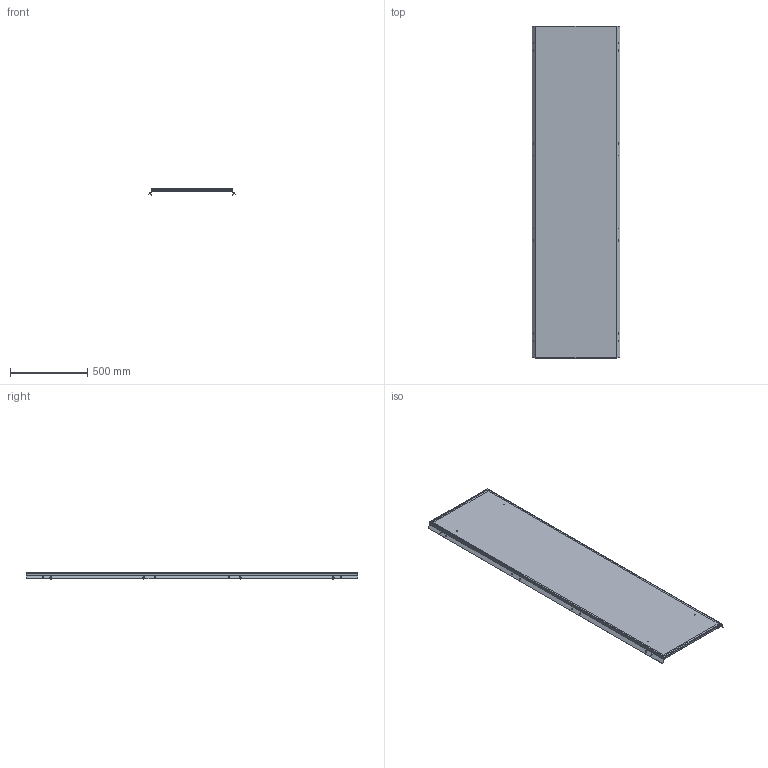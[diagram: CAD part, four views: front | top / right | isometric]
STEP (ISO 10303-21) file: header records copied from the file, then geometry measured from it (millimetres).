
FILE_DESCRIPTION (( 'STEP AP203' ), '1' );
FILE_NAME ('MA1.200.060622.10.00 AleSta-PR226 Ïàíåëü çàäíÿÿ, äëÿ øêàôîâ ALESTA, 2200 x 600.STEP', '2025-02-19T15:09:45', ( '' ), ( '' ), 'SwSTEP 2.0', 'SolidWorks 2021', '' );
FILE_SCHEMA (( 'CONFIG_CONTROL_DESIGN' ));
Length unit declared in the file: millimetre
Products named in the file (6): MA1.200.060620.11.01 Ïîëîòíî çàäíåé ïàíåëè 2000õ600_2200å600; Øïèëüêà Ì6õ12_˜¯¨«ìª  Œ6å12; Óïëîòíèòåëü ïàíåëè íèæíåé_‚=2200; MA1.200.060620.11.00 Ïàíåëü çàäíÿÿ, äëÿ øêàôîâ AleSta, 2000x600_2200å600; MA1.200.060622.10.00 AleSta-PR226  Ïàíåëü çàäíÿÿ, äëÿ øêàôîâ ALESTA, 2200 x 600; Âèíò ñàìîíàðåçàþùèé ñ ïîòàéíîé ãîëîâêîé Ì5x16 DIN 7500 M TORX, êëàññ ïðî÷íîñòè 8.8, îöèíêîâàííàÿ ñòàëü_Œ5å16
Assembly tree (15 placements, depth 3):
  MA1.200.060622.10.00 AleSta-PR226  Ïàíåëü çàäíÿÿ, äëÿ øêàôîâ ALESTA, 2200 x 600
    MA1.200.060620.11.00 Ïàíåëü çàäíÿÿ, äëÿ øêàôîâ AleSta, 2000x600_2200å600
      MA1.200.060620.11.01 Ïîëîòíî çàäíåé ïàíåëè 2000õ600_2200å600
      Óïëîòíèòåëü ïàíåëè íèæíåé_‚=2200
      Øïèëüêà Ì6õ12_˜¯¨«ìª  Œ6å12  x4
    Âèíò ñàìîíàðåçàþùèé ñ ïîòàéíîé ãîëîâêîé Ì5x16 DIN 7500 M TORX, êëàññ ïðî÷íîñòè 8.8, îöèíêîâàííàÿ ñòàëü_Œ5å16  x8
Bounding box: 565.31 x 2145 x 41.7 mm (x, y, z)
Volume: 1678821 mm3; surface area: 2860206.5 mm2
Topology: 14 solids, 14 shells, 544 faces, 1352 edges, 864 vertices
Faces by surface type: cylinder 304, plane 184, cone 40, bspline 8, torus 8
Entity records: 7885 total; most frequent: CARTESIAN_POINT 1623, DIRECTION 1165, ORIENTED_EDGE 1074, EDGE_CURVE 537, AXIS2_PLACEMENT_3D 424, VERTEX_POINT 332, LINE 317, VECTOR 317
